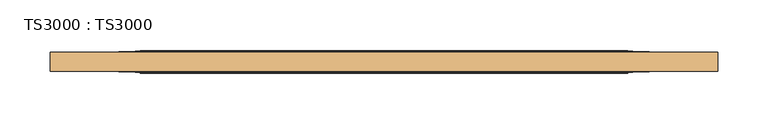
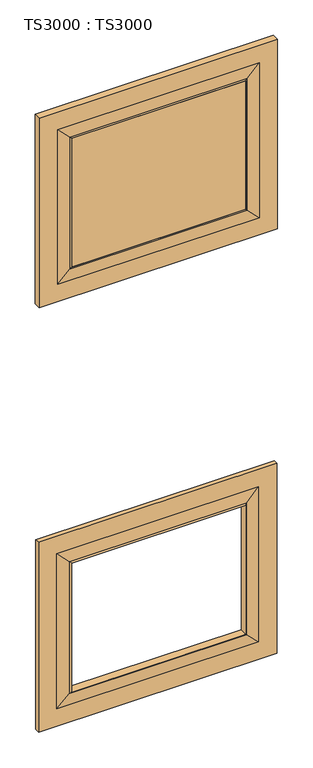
"""IFC4 building model written with IfcOpenShell, lengths in millimetres: door geometry, TS3000 : TS3000."""

from ifc_helpers import new_model, si_unit, frame, origin, place, context, project, spatial, polyline, ellipse_curve, outline, extrude, source, transform, mapped, element, save
from ifc_brep_helpers import plane_surface, revolved_surface, advanced_brep


def ts3000_ts3000_832c720e(model_context):
    return source(origin(), model_context, "Body", "SolidModel", [
        advanced_brep(
        [(787.4, 15.875, 764.1166667), (787.4, 15.875, 209.55), (787.4, 28.575, 209.55), (787.4, 28.575, 764.1166667), (698.5, 33.3375, 675.2166667), (698.5, 33.3375, 298.45), (698.5, 11.1125, 298.45), (698.5, 11.1125, 675.2166667), (127.0, 15.875, 209.55), (127.0, 28.575, 209.55), (215.9, 33.3375, 298.45), (215.9, 11.1125, 298.45), (127.0, 15.875, 764.1166667), (127.0, 28.575, 764.1166667), (215.9, 33.3375, 675.2166667), (215.9, 11.1125, 675.2166667), (736.6, 28.575, 260.35), (736.6, 28.575, 713.3166667), (177.8, 28.575, 713.3166667), (177.8, 28.575, 260.35), (736.6, 15.875, 713.3166667), (736.6, 15.875, 260.35), (177.8, 15.875, 260.35), (177.8, 15.875, 713.3166667), (703.2625, 30.95625, 293.6875), (703.2625, 30.95625, 679.9791667), (211.1375, 30.95625, 293.6875), (211.1375, 30.95625, 679.9791667), (703.2625, 13.49375, 679.9791667), (703.2625, 13.49375, 293.6875), (211.1375, 13.49375, 293.6875), (211.1375, 13.49375, 679.9791667)],
        [
            (0, 1),
            (1, 2),
            (2, 3),
            (3, 0),
            (4, 5),
            (5, 6),
            (6, 7),
            (7, 4),
            (1, 8),
            (8, 9),
            (9, 2),
            (5, 10),
            (10, 11),
            (11, 6),
            (8, 12),
            (12, 13),
            (13, 9),
            (10, 14),
            (14, 15),
            (15, 11),
            (13, 3),
            (16, 17),
            (17, 18),
            (18, 19),
            (19, 16),
            (12, 0),
            (20, 21),
            (21, 22),
            (22, 23),
            (23, 20),
            (14, 4),
            (7, 15),
            (16, 24),
            (24, 25),
            (25, 17),
            (19, 26),
            (26, 24),
            (18, 27),
            (27, 26),
            (25, 27),
            (28, 29),
            (29, 21),
            (20, 28),
            (6, 29, ellipse_curve(frame((703.7585938, 6.5484375, 293.1914062), z_axis=(-0.7071067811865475, 0.0, -0.7071067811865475), x_axis=(0.7071067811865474, 0.0, -0.7071067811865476)), 9.8471798, 6.9630076)),
            (28, 7, ellipse_curve(frame((703.7585938, 6.5484375, 680.4752604), z_axis=(-0.7071067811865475, 0.0, 0.7071067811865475), x_axis=(-0.7071067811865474, 0.0, -0.7071067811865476)), 9.8471798, 6.9630076)),
            (24, 5, ellipse_curve(frame((703.7585938, 37.9015625, 293.1914062), z_axis=(-0.7071067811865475, 0.0, -0.7071067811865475), x_axis=(0.7071067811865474, 0.0, -0.7071067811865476)), 9.8471798, 6.9630076)),
            (4, 25, ellipse_curve(frame((703.7585938, 37.9015625, 680.4752604), z_axis=(-0.7071067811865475, 0.0, 0.7071067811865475), x_axis=(-0.7071067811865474, 0.0, -0.7071067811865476)), 9.8471798, 6.9630076)),
            (29, 30),
            (30, 22),
            (11, 30, ellipse_curve(frame((210.6414062, 6.5484375, 293.1914062), z_axis=(-0.7071067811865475, 0.0, 0.7071067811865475), x_axis=(-0.7071067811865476, 0.0, -0.7071067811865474)), 9.8471798, 6.9630076)),
            (26, 10, ellipse_curve(frame((210.6414062, 37.9015625, 293.1914062), z_axis=(-0.7071067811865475, 0.0, 0.7071067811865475), x_axis=(-0.7071067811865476, 0.0, -0.7071067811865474)), 9.8471798, 6.9630076)),
            (30, 31),
            (31, 23),
            (15, 31, ellipse_curve(frame((210.6414062, 6.5484375, 680.4752604), z_axis=(0.7071067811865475, 0.0, 0.7071067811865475), x_axis=(-0.7071067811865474, 0.0, 0.7071067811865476)), 9.8471798, 6.9630076)),
            (27, 14, ellipse_curve(frame((210.6414062, 37.9015625, 680.4752604), z_axis=(0.7071067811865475, 0.0, 0.7071067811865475), x_axis=(-0.7071067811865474, 0.0, 0.7071067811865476)), 9.8471798, 6.9630076)),
            (31, 28),
        ],
        [
            plane_surface(frame((787.4, 28.575, 764.1166667), z_axis=(1.0, 0.0, 0.0), x_axis=(0.0, 0.0, -1.0))),
            plane_surface(frame((698.5, 11.1125, 675.2166667), z_axis=(-1.0, 0.0, 0.0), x_axis=(0.0, 0.0, -1.0))),
            plane_surface(frame((787.4, 28.575, 209.55), z_axis=(0.0, 0.0, -1.0), x_axis=(-1.0, 0.0, 0.0))),
            plane_surface(frame((698.5, 11.1125, 298.45), z_axis=(0.0, 0.0, 1.0), x_axis=(-1.0, 0.0, 0.0))),
            plane_surface(frame((127.0, 28.575, 209.55), z_axis=(-1.0, 0.0, 0.0), x_axis=(0.0, 0.0, 1.0))),
            plane_surface(frame((215.9, 11.1125, 298.45), z_axis=(1.0, 0.0, 0.0), x_axis=(0.0, 0.0, 1.0))),
            plane_surface(frame((177.8, 28.575, 713.3166667), z_axis=(0.0, 1.0, 0.0), x_axis=(1.0, 0.0, 0.0))),
            plane_surface(frame((127.0, 28.575, 764.1166667), z_axis=(0.0, 0.0, 1.0), x_axis=(1.0, 0.0, 0.0))),
            plane_surface(frame((127.0, 15.875, 764.1166667), z_axis=(0.0, -1.0, 0.0), x_axis=(1.0, 0.0, 0.0))),
            plane_surface(frame((215.9, 11.1125, 675.2166667), z_axis=(0.0, 0.0, -1.0), x_axis=(1.0, 0.0, 0.0))),
            plane_surface(frame((703.2625, 30.95625, 679.9791667), z_axis=(0.07124704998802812, 0.9974586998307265, 0.0), x_axis=(0.0, 0.0, -1.0))),
            plane_surface(frame((703.2625, 30.95625, 293.6875), z_axis=(0.0, 0.9974586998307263, -0.07124704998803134), x_axis=(-1.0, 0.0, 0.0))),
            plane_surface(frame((211.1375, 30.95625, 293.6875), z_axis=(-0.07124704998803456, 0.9974586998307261, 0.0), x_axis=(0.0, 0.0, 1.0))),
            plane_surface(frame((211.1375, 30.95625, 679.9791667), z_axis=(0.0, 0.9974586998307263, 0.07124704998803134), x_axis=(1.0, 0.0, 0.0))),
            plane_surface(frame((736.6, 15.875, 713.3166667), z_axis=(0.07124704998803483, -0.9974586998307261, 0.0), x_axis=(0.0, 0.0, -1.0))),
            revolved_surface(polyline([(696.7955862, 6.5484375, 286.2283985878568), (696.7955862, 6.5484375, 687.4382680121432)]), (703.7585938, 6.5484375, 675.2166667), (0.0, 0.0, -1.0)),
            revolved_surface(polyline([(696.7955862, 37.9015625, 286.2283985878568), (696.7955862, 37.9015625, 687.4382680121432)]), (703.7585938, 37.9015625, 675.2166667), (0.0, 0.0, -1.0)),
            plane_surface(frame((736.6, 15.875, 260.35), z_axis=(0.0, -0.9974586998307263, -0.07124704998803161), x_axis=(-1.0, 0.0, 0.0))),
            revolved_surface(polyline([(203.6783985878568, 6.5484375, 300.15441380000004), (710.7216014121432, 6.5484375, 300.15441380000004)]), (698.5, 6.5484375, 293.1914062), (-1.0, 0.0, 0.0)),
            revolved_surface(polyline([(203.6783985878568, 37.9015625, 300.15441380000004), (710.7216014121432, 37.9015625, 300.15441380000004)]), (698.5, 37.9015625, 293.1914062), (-1.0, 0.0, 0.0)),
            plane_surface(frame((177.8, 15.875, 260.35), z_axis=(-0.07124704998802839, -0.9974586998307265, 0.0), x_axis=(0.0, 0.0, 1.0))),
            revolved_surface(polyline([(217.6044138, 6.5484375, 687.4382680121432), (217.6044138, 6.5484375, 286.2283985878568)]), (210.6414062, 6.5484375, 298.45), (0.0, 0.0, 1.0)),
            revolved_surface(polyline([(217.6044138, 37.9015625, 687.4382680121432), (217.6044138, 37.9015625, 286.2283985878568)]), (210.6414062, 37.9015625, 298.45), (0.0, 0.0, 1.0)),
            plane_surface(frame((177.8, 15.875, 713.3166667), z_axis=(0.0, -0.9974586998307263, 0.07124704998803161), x_axis=(1.0, 0.0, 0.0))),
            revolved_surface(polyline([(710.7216014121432, 6.5484375, 673.5122528), (203.6783985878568, 6.5484375, 673.5122528)]), (215.9, 6.5484375, 680.4752604), (1.0, 0.0, 0.0)),
            revolved_surface(polyline([(710.7216014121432, 37.9015625, 673.5122528), (203.6783985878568, 37.9015625, 673.5122528)]), (215.9, 37.9015625, 680.4752604), (1.0, 0.0, 0.0)),
        ],
        [
            (0, [[1, 2, 3, 4]]),
            (1, [[5, 6, 7, 8]]),
            (2, [[9, 10, 11, -2]]),
            (3, [[12, 13, 14, -6]]),
            (4, [[15, 16, 17, -10]]),
            (5, [[18, 19, 20, -13]]),
            (6, [[-3, -11, -17, 21], [22, 23, 24, 25]]),
            (7, [[26, -4, -21, -16]]),
            (8, [[-1, -26, -15, -9], [27, 28, 29, 30]]),
            (9, [[31, -8, 32, -19]]),
            (10, [[-22, 33, 34, 35]]),
            (11, [[-25, 36, 37, -33]]),
            (12, [[-24, 38, 39, -36]]),
            (13, [[-23, -35, 40, -38]]),
            (14, [[41, 42, -27, 43]]),
            (15, [[-7, 44, -41, 45]]),
            (16, [[-34, 46, -5, 47]]),
            (17, [[48, 49, -28, -42]]),
            (18, [[-14, 50, -48, -44]]),
            (19, [[-37, 51, -12, -46]]),
            (20, [[52, 53, -29, -49]]),
            (21, [[-20, 54, -52, -50]]),
            (22, [[-39, 55, -18, -51]]),
            (23, [[56, -43, -30, -53]]),
            (24, [[-32, -45, -56, -54]]),
            (25, [[-40, -47, -31, -55]]),
        ],
    ),
        advanced_brep(
        [(787.4, 12.7, 2006.6), (787.4, 12.7, 1452.0333333), (787.4, 31.75, 1452.0333333), (787.4, 31.75, 2006.6), (698.5, 33.3375, 1917.7), (698.5, 33.3375, 1540.9333333), (698.5, 11.1125, 1540.9333333), (698.5, 11.1125, 1917.7), (127.0, 12.7, 1452.0333333), (127.0, 31.75, 1452.0333333), (215.9, 33.3375, 1540.9333333), (215.9, 11.1125, 1540.9333333), (127.0, 12.7, 2006.6), (127.0, 31.75, 2006.6), (215.9, 33.3375, 1917.7), (215.9, 11.1125, 1917.7), (736.6, 31.75, 1502.8333333), (736.6, 31.75, 1955.8), (177.8, 31.75, 1955.8), (177.8, 31.75, 1502.8333333), (736.6, 12.7, 1955.8), (736.6, 12.7, 1502.8333333), (177.8, 12.7, 1502.8333333), (177.8, 12.7, 1955.8), (703.2625, 32.54375, 1536.1708333), (703.2625, 32.54375, 1922.4625), (211.1375, 32.54375, 1536.1708333), (211.1375, 32.54375, 1922.4625), (703.2625, 11.90625, 1922.4625), (703.2625, 11.90625, 1536.1708333), (211.1375, 11.90625, 1536.1708333), (211.1375, 11.90625, 1922.4625)],
        [
            (0, 1),
            (1, 2),
            (2, 3),
            (3, 0),
            (4, 5),
            (5, 6),
            (6, 7),
            (7, 4),
            (1, 8),
            (8, 9),
            (9, 2),
            (5, 10),
            (10, 11),
            (11, 6),
            (8, 12),
            (12, 13),
            (13, 9),
            (10, 14),
            (14, 15),
            (15, 11),
            (13, 3),
            (16, 17),
            (17, 18),
            (18, 19),
            (19, 16),
            (12, 0),
            (20, 21),
            (21, 22),
            (22, 23),
            (23, 20),
            (14, 4),
            (7, 15),
            (16, 24),
            (24, 25),
            (25, 17),
            (19, 26),
            (26, 24),
            (18, 27),
            (27, 26),
            (25, 27),
            (28, 29),
            (29, 21),
            (20, 28),
            (6, 29, ellipse_curve(frame((703.7585938, -5.7546875, 1535.6747396), z_axis=(-0.7071067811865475, 0.0, -0.7071067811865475), x_axis=(0.7071067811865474, 0.0, -0.7071067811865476)), 24.9861891, 17.6679037)),
            (28, 7, ellipse_curve(frame((703.7585938, -5.7546875, 1922.9585938), z_axis=(-0.7071067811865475, 0.0, 0.7071067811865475), x_axis=(-0.7071067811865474, 0.0, -0.7071067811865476)), 24.9861891, 17.6679037)),
            (24, 5, ellipse_curve(frame((703.7585938, 50.2046875, 1535.6747396), z_axis=(-0.7071067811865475, 0.0, -0.7071067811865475), x_axis=(0.7071067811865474, 0.0, -0.7071067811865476)), 24.9861891, 17.6679037)),
            (4, 25, ellipse_curve(frame((703.7585938, 50.2046875, 1922.9585938), z_axis=(-0.7071067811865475, 0.0, 0.7071067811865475), x_axis=(-0.7071067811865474, 0.0, -0.7071067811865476)), 24.9861891, 17.6679037)),
            (29, 30),
            (30, 22),
            (11, 30, ellipse_curve(frame((210.6414063, -5.7546875, 1535.6747396), z_axis=(-0.7071067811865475, 0.0, 0.7071067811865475), x_axis=(-0.7071067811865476, 0.0, -0.7071067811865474)), 24.9861891, 17.6679037)),
            (26, 10, ellipse_curve(frame((210.6414063, 50.2046875, 1535.6747396), z_axis=(-0.7071067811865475, 0.0, 0.7071067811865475), x_axis=(-0.7071067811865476, 0.0, -0.7071067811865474)), 24.9861891, 17.6679037)),
            (30, 31),
            (31, 23),
            (15, 31, ellipse_curve(frame((210.6414063, -5.7546875, 1922.9585938), z_axis=(0.7071067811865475, 0.0, 0.7071067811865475), x_axis=(-0.7071067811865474, 0.0, 0.7071067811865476)), 24.9861891, 17.6679037)),
            (27, 14, ellipse_curve(frame((210.6414063, 50.2046875, 1922.9585938), z_axis=(0.7071067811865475, 0.0, 0.7071067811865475), x_axis=(-0.7071067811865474, 0.0, 0.7071067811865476)), 24.9861891, 17.6679037)),
            (31, 28),
        ],
        [
            plane_surface(frame((787.4, 31.75, 2006.6), z_axis=(1.0, 0.0, 0.0), x_axis=(0.0, 0.0, -1.0))),
            plane_surface(frame((698.5, 11.1125, 1917.7), z_axis=(-1.0, 0.0, 0.0), x_axis=(0.0, 0.0, -1.0))),
            plane_surface(frame((787.4, 31.75, 1452.0333333), z_axis=(0.0, 0.0, -1.0), x_axis=(-1.0, 0.0, 0.0))),
            plane_surface(frame((698.5, 11.1125, 1540.9333333), z_axis=(0.0, 0.0, 1.0), x_axis=(-1.0, 0.0, 0.0))),
            plane_surface(frame((127.0, 31.75, 1452.0333333), z_axis=(-1.0, 0.0, 0.0), x_axis=(0.0, 0.0, 1.0))),
            plane_surface(frame((215.9, 11.1125, 1540.9333333), z_axis=(1.0, 0.0, 0.0), x_axis=(0.0, 0.0, 1.0))),
            plane_surface(frame((177.8, 31.75, 1955.8), z_axis=(0.0, 1.0, 0.0), x_axis=(1.0, 0.0, 0.0))),
            plane_surface(frame((127.0, 31.75, 2006.6), z_axis=(0.0, 0.0, 1.0), x_axis=(1.0, 0.0, 0.0))),
            plane_surface(frame((127.0, 12.7, 2006.6), z_axis=(0.0, -1.0, 0.0), x_axis=(1.0, 0.0, 0.0))),
            plane_surface(frame((215.9, 11.1125, 1917.7), z_axis=(0.0, 0.0, -1.0), x_axis=(1.0, 0.0, 0.0))),
            plane_surface(frame((703.2625, 32.54375, 1922.4625), z_axis=(0.023802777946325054, 0.9997166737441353, 0.0), x_axis=(0.0, 0.0, -1.0))),
            plane_surface(frame((703.2625, 32.54375, 1536.1708333), z_axis=(0.0, 0.9997166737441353, -0.02380277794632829), x_axis=(-1.0, 0.0, 0.0))),
            plane_surface(frame((211.1375, 32.54375, 1536.1708333), z_axis=(-0.023802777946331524, 0.9997166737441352, 0.0), x_axis=(0.0, 0.0, 1.0))),
            plane_surface(frame((211.1375, 32.54375, 1922.4625), z_axis=(0.0, 0.9997166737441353, 0.02380277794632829), x_axis=(1.0, 0.0, 0.0))),
            plane_surface(frame((736.6, 12.7, 1955.8), z_axis=(0.023802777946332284, -0.9997166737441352, 0.0), x_axis=(0.0, 0.0, -1.0))),
            revolved_surface(polyline([(686.0906901, -5.7546875, 1518.0068358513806), (686.0906901, -5.7546875, 1940.6264975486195)]), (703.7585938, -5.7546875, 1917.7), (0.0, 0.0, -1.0)),
            revolved_surface(polyline([(686.0906901, 50.2046875, 1518.0068358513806), (686.0906901, 50.2046875, 1940.6264975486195)]), (703.7585938, 50.2046875, 1917.7), (0.0, 0.0, -1.0)),
            plane_surface(frame((736.6, 12.7, 1502.8333333), z_axis=(0.0, -0.9997166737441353, -0.02380277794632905), x_axis=(-1.0, 0.0, 0.0))),
            revolved_surface(polyline([(192.9735025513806, -5.7546875, 1553.3426433), (721.4264975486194, -5.7546875, 1553.3426433)]), (698.5, -5.7546875, 1535.6747396), (-1.0, 0.0, 0.0)),
            revolved_surface(polyline([(192.9735025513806, 50.2046875, 1553.3426433), (721.4264975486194, 50.2046875, 1553.3426433)]), (698.5, 50.2046875, 1535.6747396), (-1.0, 0.0, 0.0)),
            plane_surface(frame((177.8, 12.7, 1502.8333333), z_axis=(-0.023802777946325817, -0.9997166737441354, 0.0), x_axis=(0.0, 0.0, 1.0))),
            revolved_surface(polyline([(228.30931, -5.7546875, 1940.6264975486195), (228.30931, -5.7546875, 1518.0068358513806)]), (210.6414063, -5.7546875, 1540.9333333), (0.0, 0.0, 1.0)),
            revolved_surface(polyline([(228.30931, 50.2046875, 1940.6264975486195), (228.30931, 50.2046875, 1518.0068358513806)]), (210.6414063, 50.2046875, 1540.9333333), (0.0, 0.0, 1.0)),
            plane_surface(frame((177.8, 12.7, 1955.8), z_axis=(0.0, -0.9997166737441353, 0.02380277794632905), x_axis=(1.0, 0.0, 0.0))),
            revolved_surface(polyline([(721.4264975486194, -5.7546875, 1905.2906901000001), (192.9735025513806, -5.7546875, 1905.2906901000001)]), (215.9, -5.7546875, 1922.9585938), (1.0, 0.0, 0.0)),
            revolved_surface(polyline([(721.4264975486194, 50.2046875, 1905.2906901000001), (192.9735025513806, 50.2046875, 1905.2906901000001)]), (215.9, 50.2046875, 1922.9585938), (1.0, 0.0, 0.0)),
        ],
        [
            (0, [[1, 2, 3, 4]]),
            (1, [[5, 6, 7, 8]]),
            (2, [[9, 10, 11, -2]]),
            (3, [[12, 13, 14, -6]]),
            (4, [[15, 16, 17, -10]]),
            (5, [[18, 19, 20, -13]]),
            (6, [[-3, -11, -17, 21], [22, 23, 24, 25]]),
            (7, [[26, -4, -21, -16]]),
            (8, [[-1, -26, -15, -9], [27, 28, 29, 30]]),
            (9, [[31, -8, 32, -19]]),
            (10, [[-22, 33, 34, 35]]),
            (11, [[-25, 36, 37, -33]]),
            (12, [[-24, 38, 39, -36]]),
            (13, [[-23, -35, 40, -38]]),
            (14, [[41, 42, -27, 43]]),
            (15, [[-7, 44, -41, 45]]),
            (16, [[-34, 46, -5, 47]]),
            (17, [[48, 49, -28, -42]]),
            (18, [[-14, 50, -48, -44]]),
            (19, [[-37, 51, -12, -46]]),
            (20, [[52, 53, -29, -49]]),
            (21, [[-20, 54, -52, -50]]),
            (22, [[-39, 55, -18, -51]]),
            (23, [[56, -43, -30, -53]]),
            (24, [[-32, -45, -56, -54]]),
            (25, [[-40, -47, -31, -55]]),
        ],
    ),
        extrude(outline(polyline([(215.9, 11.1125), (215.9, 33.3375), (698.5, 33.3375), (698.5, 11.1125), (215.9, 11.1125)])), frame((0.0, 0.0, 1540.9333333), z_axis=(0.0, 0.0, 1.0), x_axis=(1.0, 0.0, 0.0)), (0.0, 0.0, 1.0), 376.7666667),
    ])


if __name__ == "__main__":
    model = new_model("IFC4")
    model_context = context("Model", 3, world=origin())
    ifc_project = project(units=[si_unit("LENGTHUNIT", "METRE", prefix="MILLI")], contexts=[model_context])
    site = spatial("IfcSite", under=ifc_project)
    building = spatial("IfcBuilding", under=site)
    placement = place(None, origin())
    ts3000_ts3000_shape = ts3000_ts3000_832c720e(model_context)
    element("IfcDoor", 1, ObjectType="TS3000 : TS3000", at=placement, inside=building, context=model_context, shape_type="MappedRepresentation", body=[
        mapped(ts3000_ts3000_shape, transform((0.0, 0.0, 0.0), x_axis=(1.0, 0.0, 0.0), y_axis=(0.0, 1.0, 0.0), z_axis=(0.0, 0.0, 1.0))),
    ])
    save(model, "model.ifc")
